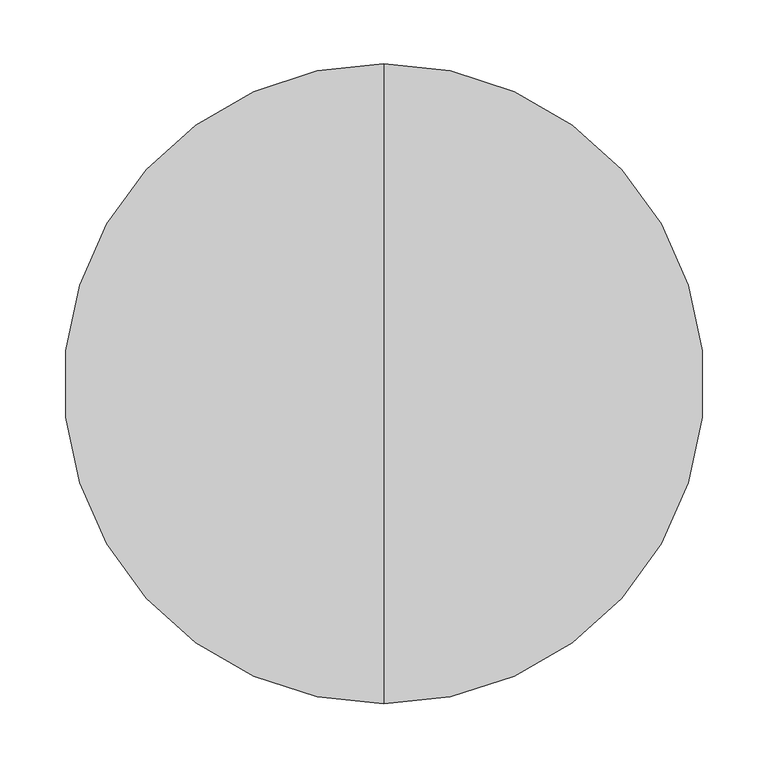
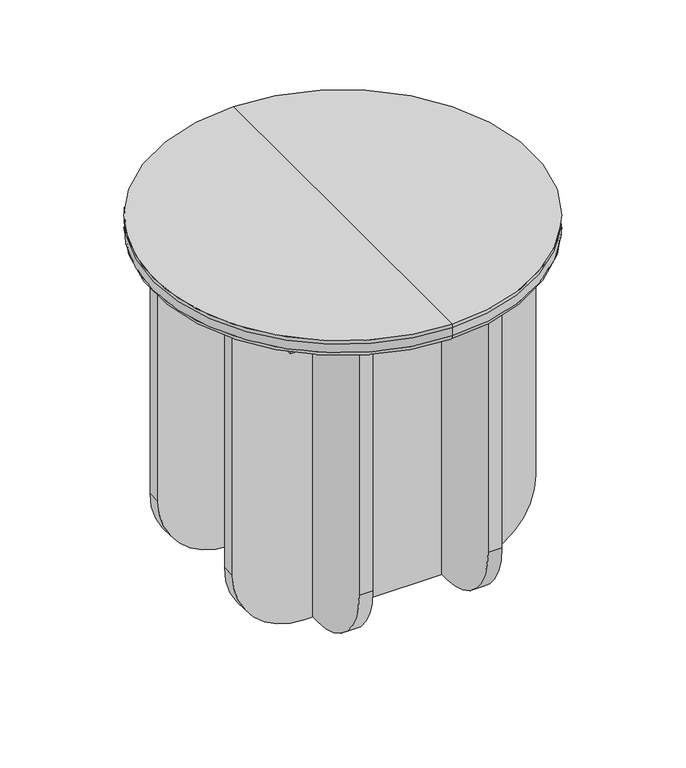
"""IFC4 building model written with IfcOpenShell, lengths in millimetres: furniture geometry, Lundbergs Möbler - Funghi Piccolo - Lounge Table - Round - Ø50 - H47 : Lundbergs Möbler - Funghi Piccolo - Lounge Table - Round - Ø50 - H47."""

from ifc_helpers import new_model, si_unit, point, frame, frame_2d, origin, place, context, project, spatial, polyline, circle_curve, ellipse_curve, trimmed, segment, composite_curve, outline, extrude, source, transform, mapped, element, save
from ifc_brep_helpers import plane_surface, cylinder_surface, revolved_surface, advanced_brep


def furniture_7f435b12(model_context):
    return source(origin(), model_context, "Body", "SolidModel", [
        extrude(outline(composite_curve([segment(polyline([(446.0, -200.0), (95.0, -200.0)]), True, "CONTINUOUS"), segment(trimmed(circle_curve(frame_2d((95.0, -105.0)), 95.0), [point((95.0, -200.0))], [point((0.0, -105.0))], False, "CARTESIAN"), True, "CONTINUOUS"), segment(polyline([(0.0, -105.0), (0.0, 105.0)]), True, "CONTINUOUS"), segment(trimmed(circle_curve(frame_2d((95.0, 105.0)), 95.0), [point((0.0, 105.0))], [point((95.0, 200.0))], False, "CARTESIAN"), True, "CONTINUOUS"), segment(polyline([(95.0, 200.0), (446.0, 200.0), (446.0, -200.0)]), True, "CONTINUOUS")], self_intersect=False)), frame((0.0, 76.0, 0.0), z_axis=(0.0, 1.0, 0.0), x_axis=(0.0, 0.0, 1.0)), (0.0, 0.0, 1.0), 18.0),
        extrude(outline(composite_curve([segment(polyline([(200.0, 446.0), (200.0, 95.0)]), True, "CONTINUOUS"), segment(trimmed(circle_curve(frame_2d((105.0, 95.0)), 95.0), [point((200.0, 95.0))], [point((105.0, 0.0))], False, "CARTESIAN"), True, "CONTINUOUS"), segment(polyline([(105.0, 0.0), (-105.0, 0.0)]), True, "CONTINUOUS"), segment(trimmed(circle_curve(frame_2d((-105.0, 95.0)), 95.0), [point((-105.0, 0.0))], [point((-200.0, 95.0))], False, "CARTESIAN"), True, "CONTINUOUS"), segment(polyline([(-200.0, 95.0), (-200.0, 446.0), (200.0, 446.0)]), True, "CONTINUOUS")], self_intersect=False)), frame((-94.0, 0.0, 0.0), z_axis=(1.0, 0.0, 0.0), x_axis=(0.0, 1.0, 0.0)), (0.0, 0.0, 1.0), 18.0),
        extrude(outline(composite_curve([segment(polyline([(200.0, 446.0), (200.0, 95.0)]), True, "CONTINUOUS"), segment(trimmed(circle_curve(frame_2d((105.0, 95.0)), 95.0), [point((200.0, 95.0))], [point((105.0, 0.0))], False, "CARTESIAN"), True, "CONTINUOUS"), segment(polyline([(105.0, 0.0), (-105.0, 0.0)]), True, "CONTINUOUS"), segment(trimmed(circle_curve(frame_2d((-105.0, 95.0)), 95.0), [point((-105.0, 0.0))], [point((-200.0, 95.0))], False, "CARTESIAN"), True, "CONTINUOUS"), segment(polyline([(-200.0, 95.0), (-200.0, 446.0), (200.0, 446.0)]), True, "CONTINUOUS")], self_intersect=False)), frame((76.0, 0.0, 0.0), z_axis=(1.0, 0.0, 0.0), x_axis=(0.0, 1.0, 0.0)), (0.0, 0.0, 1.0), 18.0),
        extrude(outline(polyline([(165.0, 165.0), (165.0, -165.0), (-165.0, -165.0), (-165.0, 165.0), (165.0, 165.0)]), holes=[polyline([(-125.0, -125.0), (125.0, -125.0), (125.0, 125.0), (-125.0, 125.0), (-125.0, -125.0)])]), frame((0.0, 0.0, 435.0), z_axis=(0.0, 0.0, 1.0), x_axis=(1.0, 0.0, 0.0)), (0.0, 0.0, 1.0), 11.0),
        advanced_brep(
        [(0.0, -250.0, 453.5), (0.0, 250.0, 453.5), (0.0, 242.5, 446.0), (0.0, -242.5, 446.0), (0.0, -250.0, 465.0331674), (0.0, 250.0, 465.0331674), (0.0, -250.0, 470.0), (0.0, 250.0, 470.0), (0.0, 0.0, 470.0), (0.0, 0.0, 446.0)],
        [
            (0, 1, circle_curve(frame((0.0, 0.0, 453.5), z_axis=(0.0, 0.0, -1.0), x_axis=(0.0, 1.0, 0.0)), 250.0)),
            (1, 2, circle_curve(frame((0.0, 242.5, 453.5), z_axis=(-1.0, 0.0, 0.0), x_axis=(0.0, -1.0, 0.0)), 7.5)),
            (2, 3, circle_curve(frame((0.0, 0.0, 446.0), z_axis=(0.0, 0.0, 1.0), x_axis=(0.0, 1.0, 0.0)), 242.5)),
            (3, 0, circle_curve(frame((0.0, -242.5, 453.5), z_axis=(-1.0, 0.0, 0.0), x_axis=(0.0, 1.0, 0.0)), 7.5)),
            (1, 0, circle_curve(frame((0.0, 0.0, 453.5), z_axis=(0.0, 0.0, -1.0), x_axis=(0.0, 1.0, 0.0)), 250.0)),
            (3, 2, circle_curve(frame((0.0, 0.0, 446.0), z_axis=(0.0, 0.0, 1.0), x_axis=(0.0, 1.0, 0.0)), 242.5)),
            (4, 5, circle_curve(frame((0.0, 0.0, 465.0331674), z_axis=(0.0, 0.0, -1.0), x_axis=(0.0, 1.0, 0.0)), 250.0)),
            (5, 1),
            (0, 4),
            (5, 4, circle_curve(frame((0.0, 0.0, 465.0331674), z_axis=(0.0, 0.0, -1.0), x_axis=(0.0, 1.0, 0.0)), 250.0)),
            (6, 7, circle_curve(frame((0.0, 0.0, 470.0), z_axis=(0.0, 0.0, -1.0), x_axis=(0.0, 1.0, 0.0)), 250.0)),
            (7, 5),
            (4, 6),
            (7, 6, circle_curve(frame((0.0, 0.0, 470.0), z_axis=(0.0, 0.0, -1.0), x_axis=(0.0, 1.0, 0.0)), 250.0)),
            (8, 7),
            (6, 8),
            (2, 9),
            (9, 3),
        ],
        [
            revolved_surface(trimmed(ellipse_curve(frame((0.0, 242.5, 453.5), z_axis=(1.0, 0.0, 0.0), x_axis=(0.0, -1.0, 0.0)), 7.5, 7.5), [point((0.0, 242.5, 446.0))], [point((0.0, 250.0, 453.5))], True, "CARTESIAN"), (0.0, 0.0, 520.0), (0.0, 0.0, 1.0)),
            cylinder_surface(frame((0.0, 0.0, 520.0), z_axis=(0.0, 0.0, 1.0), x_axis=(0.0, 1.0, 0.0)), 250.0),
            plane_surface(frame((0.0, 0.0, 470.0), z_axis=(0.0, 0.0, 1.0), x_axis=(0.0, 1.0, 0.0))),
            plane_surface(frame((0.0, 0.0, 446.0), z_axis=(0.0, 0.0, -1.0), x_axis=(0.0, 1.0, 0.0))),
        ],
        [
            (0, [[1, 2, 3, 4]]),
            (0, [[5, -4, 6, -2]]),
            (1, [[7, 8, -1, 9]]),
            (1, [[10, -9, -5, -8]]),
            (1, [[11, 12, -7, 13]]),
            (1, [[14, -13, -10, -12]]),
            (2, [[15, -11, 16]]),
            (2, [[-16, -14, -15]]),
            (3, [[-3, 17, 18]]),
            (3, [[-6, -18, -17]]),
        ],
    ),
        extrude(outline(composite_curve([segment(polyline([(446.0, -200.0), (95.0, -200.0)]), True, "CONTINUOUS"), segment(trimmed(circle_curve(frame_2d((95.0, -105.0)), 95.0), [point((95.0, -200.0))], [point((0.0, -105.0))], False, "CARTESIAN"), True, "CONTINUOUS"), segment(polyline([(0.0, -105.0), (0.0, 105.0)]), True, "CONTINUOUS"), segment(trimmed(circle_curve(frame_2d((95.0, 105.0)), 95.0), [point((0.0, 105.0))], [point((95.0, 200.0))], False, "CARTESIAN"), True, "CONTINUOUS"), segment(polyline([(95.0, 200.0), (446.0, 200.0), (446.0, -200.0)]), True, "CONTINUOUS")], self_intersect=False)), frame((0.0, -94.0, 0.0), z_axis=(0.0, 1.0, 0.0), x_axis=(0.0, 0.0, 1.0)), (0.0, 0.0, 1.0), 18.0),
    ])


if __name__ == "__main__":
    model = new_model("IFC4")
    model_context = context("Model", 3, world=origin())
    ifc_project = project(units=[si_unit("LENGTHUNIT", "METRE", prefix="MILLI")], contexts=[model_context])
    site = spatial("IfcSite", under=ifc_project)
    building = spatial("IfcBuilding", under=site)
    placement = place(None, origin())
    furniture_shape = furniture_7f435b12(model_context)
    element("IfcFurniture", 1, ObjectType="Lundbergs Möbler - Funghi Piccolo - Lounge Table - Round - Ø50 - H47 : Lundbergs Möbler - Funghi Piccolo - Lounge Table - Round - Ø50 - H47", at=placement, inside=building, context=model_context, shape_type="MappedRepresentation", body=[
        mapped(furniture_shape, transform((0.0, 0.0, 0.0), x_axis=(1.0, 0.0, 0.0), y_axis=(0.0, 1.0, 0.0), z_axis=(0.0, 0.0, 1.0))),
    ])
    save(model, "model.ifc")
